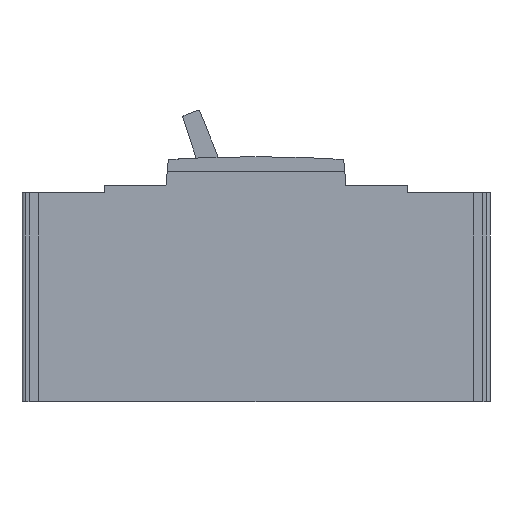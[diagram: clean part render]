
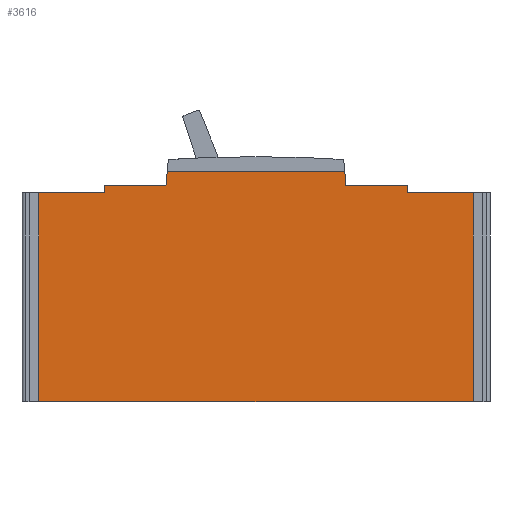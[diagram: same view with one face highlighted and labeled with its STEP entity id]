
A CAD part, left-side view. The second image highlights one B-rep face of the part: STEP entity #3616.
In plain terms, the highlighted planar face has unit normal (-1, 0, 0).
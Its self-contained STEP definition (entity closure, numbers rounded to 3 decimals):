
#33 = ORIENTED_EDGE ( 'NONE', *, *, #4475, .F. ) ;
#49 = CARTESIAN_POINT ( 'NONE',  ( -12.3, -24.674, 63.726 ) ) ;
#97 = DIRECTION ( 'NONE',  ( 1., 0., 0. ) ) ;
#138 = CARTESIAN_POINT ( 'NONE',  ( -12.3, -42., 60. ) ) ;
#221 = VERTEX_POINT ( 'NONE', #3261 ) ;
#293 = DIRECTION ( 'NONE',  ( 0., -1., 0. ) ) ;
#298 = ORIENTED_EDGE ( 'NONE', *, *, #1973, .T. ) ;
#306 = CARTESIAN_POINT ( 'NONE',  ( -12.3, -60.3, 0. ) ) ;
#368 = VERTEX_POINT ( 'NONE', #3158 ) ;
#422 = EDGE_CURVE ( 'NONE', #4070, #2160, #1091, .T. ) ;
#579 = DIRECTION ( 'NONE',  ( 1., 0., 0. ) ) ;
#642 = CARTESIAN_POINT ( 'NONE',  ( -12.3, 24.375, 64. ) ) ;
#693 = VERTEX_POINT ( 'NONE', #3006 ) ;
#705 = DIRECTION ( 'NONE',  ( 0., 1., 0. ) ) ;
#727 = ORIENTED_EDGE ( 'NONE', *, *, #4122, .F. ) ;
#890 = ORIENTED_EDGE ( 'NONE', *, *, #4148, .F. ) ;
#959 = CARTESIAN_POINT ( 'NONE',  ( -12.3, 42., 60. ) ) ;
#972 = CARTESIAN_POINT ( 'NONE',  ( -12.3, 25., 60. ) ) ;
#1017 = VECTOR ( 'NONE', #1825, 1000. ) ;
#1035 = CARTESIAN_POINT ( 'NONE',  ( -12.3, 0., 58. ) ) ;
#1037 = ORIENTED_EDGE ( 'NONE', *, *, #2236, .F. ) ;
#1060 = VERTEX_POINT ( 'NONE', #3933 ) ;
#1084 = CARTESIAN_POINT ( 'NONE',  ( -12.3, 42., 0. ) ) ;
#1091 = LINE ( 'NONE', #3965, #2578 ) ;
#1151 = DIRECTION ( 'NONE',  ( 0., -0.087, -0.996 ) ) ;
#1210 = EDGE_CURVE ( 'NONE', #2796, #221, #1687, .T. ) ;
#1260 = DIRECTION ( 'NONE',  ( 0., 1., 0. ) ) ;
#1280 = LINE ( 'NONE', #3474, #2653 ) ;
#1466 = LINE ( 'NONE', #3159, #1573 ) ;
#1533 = ORIENTED_EDGE ( 'NONE', *, *, #3216, .F. ) ;
#1573 = VECTOR ( 'NONE', #1727, 1000. ) ;
#1581 = VECTOR ( 'NONE', #3841, 1000. ) ;
#1614 = CARTESIAN_POINT ( 'NONE',  ( -12.3, -42., 0. ) ) ;
#1668 = ORIENTED_EDGE ( 'NONE', *, *, #3910, .F. ) ;
#1670 = CARTESIAN_POINT ( 'NONE',  ( -12.3, 24.375, 63.7 ) ) ;
#1686 = VERTEX_POINT ( 'NONE', #49 ) ;
#1687 = LINE ( 'NONE', #1614, #3247 ) ;
#1727 = DIRECTION ( 'NONE',  ( 0., -1., 0. ) ) ;
#1773 = ORIENTED_EDGE ( 'NONE', *, *, #2609, .F. ) ;
#1788 = DIRECTION ( 'NONE',  ( 0., -1., 0. ) ) ;
#1825 = DIRECTION ( 'NONE',  ( 0., 0., 1. ) ) ;
#1862 = VERTEX_POINT ( 'NONE', #959 ) ;
#1864 = LINE ( 'NONE', #1084, #4084 ) ;
#1894 = DIRECTION ( 'NONE',  ( 0., -1., 0. ) ) ;
#1903 = EDGE_CURVE ( 'NONE', #368, #693, #3904, .T. ) ;
#1936 = ORIENTED_EDGE ( 'NONE', *, *, #4710, .F. ) ;
#1973 = EDGE_CURVE ( 'NONE', #368, #2058, #2350, .T. ) ;
#1975 = LINE ( 'NONE', #3856, #1581 ) ;
#1992 = DIRECTION ( 'NONE',  ( 0., 1., 0. ) ) ;
#2030 = VERTEX_POINT ( 'NONE', #3228 ) ;
#2046 = CARTESIAN_POINT ( 'NONE',  ( -12.3, -60.3, 58. ) ) ;
#2058 = VERTEX_POINT ( 'NONE', #2046 ) ;
#2068 = LINE ( 'NONE', #3706, #3894 ) ;
#2097 = DIRECTION ( 'NONE',  ( 0., 0., 1. ) ) ;
#2144 = CARTESIAN_POINT ( 'NONE',  ( -12.3, 60.3, 0. ) ) ;
#2160 = VERTEX_POINT ( 'NONE', #2502 ) ;
#2236 = EDGE_CURVE ( 'NONE', #2932, #1060, #1280, .T. ) ;
#2244 = VECTOR ( 'NONE', #2097, 1000. ) ;
#2258 = CARTESIAN_POINT ( 'NONE',  ( -12.3, -24.375, 63.7 ) ) ;
#2333 = EDGE_CURVE ( 'NONE', #221, #2058, #3175, .T. ) ;
#2350 = LINE ( 'NONE', #306, #2244 ) ;
#2502 = CARTESIAN_POINT ( 'NONE',  ( -12.3, -24.375, 64. ) ) ;
#2509 = PLANE ( 'NONE',  #3656 ) ;
#2538 = VECTOR ( 'NONE', #293, 1000. ) ;
#2574 = CARTESIAN_POINT ( 'NONE',  ( -12.3, -30.02, 2.626 ) ) ;
#2578 = VECTOR ( 'NONE', #1788, 1000. ) ;
#2609 = EDGE_CURVE ( 'NONE', #4411, #2030, #2068, .T. ) ;
#2653 = VECTOR ( 'NONE', #4222, 1000. ) ;
#2672 = ORIENTED_EDGE ( 'NONE', *, *, #422, .F. ) ;
#2694 = CARTESIAN_POINT ( 'NONE',  ( -12.3, 60.3, 58. ) ) ;
#2716 = DIRECTION ( 'NONE',  ( 0., 0., -1. ) ) ;
#2796 = VERTEX_POINT ( 'NONE', #138 ) ;
#2850 = LINE ( 'NONE', #3277, #1017 ) ;
#2892 = DIRECTION ( 'NONE',  ( 1., 0., 0. ) ) ;
#2932 = VERTEX_POINT ( 'NONE', #972 ) ;
#3006 = CARTESIAN_POINT ( 'NONE',  ( -12.3, 60.3, 0. ) ) ;
#3090 = CARTESIAN_POINT ( 'NONE',  ( -12.3, 60.3, 0. ) ) ;
#3158 = CARTESIAN_POINT ( 'NONE',  ( -12.3, -60.3, 0. ) ) ;
#3159 = CARTESIAN_POINT ( 'NONE',  ( -12.3, 0., 60. ) ) ;
#3175 = LINE ( 'NONE', #1035, #2538 ) ;
#3216 = EDGE_CURVE ( 'NONE', #2160, #1686, #4464, .T. ) ;
#3228 = CARTESIAN_POINT ( 'NONE',  ( -12.3, 42., 58. ) ) ;
#3247 = VECTOR ( 'NONE', #2716, 1000. ) ;
#3261 = CARTESIAN_POINT ( 'NONE',  ( -12.3, -42., 58. ) ) ;
#3267 = ORIENTED_EDGE ( 'NONE', *, *, #1210, .F. ) ;
#3277 = CARTESIAN_POINT ( 'NONE',  ( -12.3, 60.3, 0. ) ) ;
#3474 = CARTESIAN_POINT ( 'NONE',  ( -12.3, 30.02, 2.626 ) ) ;
#3480 = EDGE_LOOP ( 'NONE', ( #727, #4689, #298, #4617, #3267, #33, #1936, #1533, #2672, #1668, #1037, #4283, #890, #1773 ) ) ;
#3577 = VECTOR ( 'NONE', #1151, 1000. ) ;
#3616 = ADVANCED_FACE ( 'NONE', ( #3979 ), #2509, .F. ) ;
#3656 = AXIS2_PLACEMENT_3D ( 'NONE', #2144, #2892, #705 ) ;
#3684 = VERTEX_POINT ( 'NONE', #4427 ) ;
#3706 = CARTESIAN_POINT ( 'NONE',  ( -12.3, 0., 58. ) ) ;
#3726 = DIRECTION ( 'NONE',  ( 0., 1., 0. ) ) ;
#3841 = DIRECTION ( 'NONE',  ( 0., -1., 0. ) ) ;
#3856 = CARTESIAN_POINT ( 'NONE',  ( -12.3, 0., 60. ) ) ;
#3891 = AXIS2_PLACEMENT_3D ( 'NONE', #1670, #579, #1260 ) ;
#3894 = VECTOR ( 'NONE', #1894, 1000. ) ;
#3904 = LINE ( 'NONE', #3090, #4599 ) ;
#3910 = EDGE_CURVE ( 'NONE', #1060, #4070, #4568, .T. ) ;
#3933 = CARTESIAN_POINT ( 'NONE',  ( -12.3, 24.674, 63.726 ) ) ;
#3965 = CARTESIAN_POINT ( 'NONE',  ( -12.3, 0., 64. ) ) ;
#3979 = FACE_OUTER_BOUND ( 'NONE', #3480, .T. ) ;
#3992 = DIRECTION ( 'NONE',  ( 0., 0., 1. ) ) ;
#4070 = VERTEX_POINT ( 'NONE', #642 ) ;
#4084 = VECTOR ( 'NONE', #3992, 1000. ) ;
#4122 = EDGE_CURVE ( 'NONE', #693, #4411, #2850, .T. ) ;
#4148 = EDGE_CURVE ( 'NONE', #2030, #1862, #1864, .T. ) ;
#4222 = DIRECTION ( 'NONE',  ( 0., -0.087, 0.996 ) ) ;
#4283 = ORIENTED_EDGE ( 'NONE', *, *, #4595, .F. ) ;
#4360 = AXIS2_PLACEMENT_3D ( 'NONE', #2258, #97, #3726 ) ;
#4411 = VERTEX_POINT ( 'NONE', #2694 ) ;
#4427 = CARTESIAN_POINT ( 'NONE',  ( -12.3, -25., 60. ) ) ;
#4464 = CIRCLE ( 'NONE', #4360, 0.3 ) ;
#4475 = EDGE_CURVE ( 'NONE', #3684, #2796, #1975, .T. ) ;
#4568 = CIRCLE ( 'NONE', #3891, 0.3 ) ;
#4595 = EDGE_CURVE ( 'NONE', #1862, #2932, #1466, .T. ) ;
#4599 = VECTOR ( 'NONE', #1992, 1000. ) ;
#4617 = ORIENTED_EDGE ( 'NONE', *, *, #2333, .F. ) ;
#4669 = LINE ( 'NONE', #2574, #3577 ) ;
#4689 = ORIENTED_EDGE ( 'NONE', *, *, #1903, .F. ) ;
#4710 = EDGE_CURVE ( 'NONE', #1686, #3684, #4669, .T. ) ;
